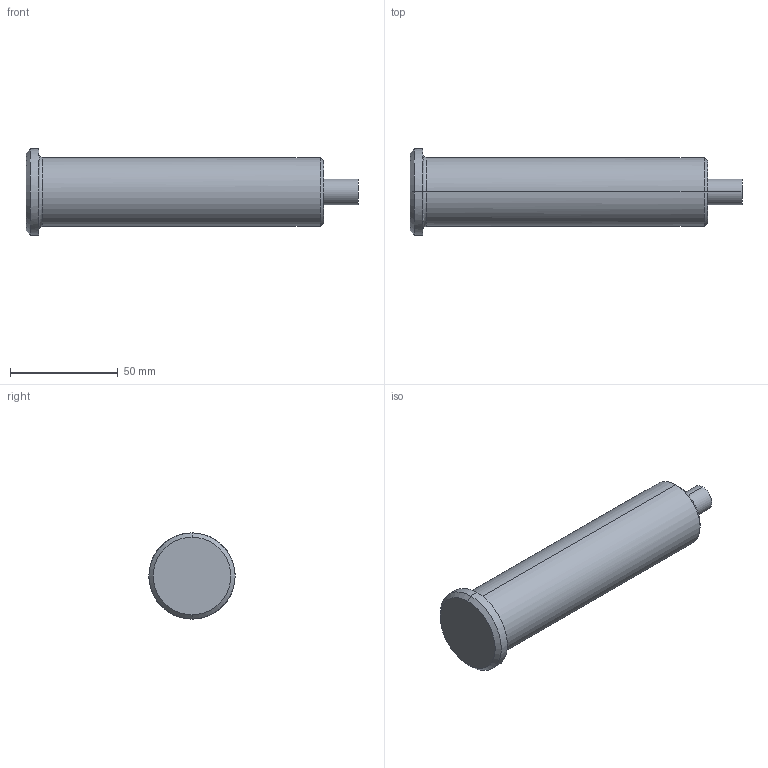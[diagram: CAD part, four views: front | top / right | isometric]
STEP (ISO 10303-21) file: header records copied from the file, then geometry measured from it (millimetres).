
FILE_DESCRIPTION(('CATIA V5 STEP Exchange'),'2;1');
FILE_NAME('C:\Users\Raffaele\Desktop\3D X SITO CF\PERNI -STAFFE SOLLEVAMENTO\395C\GSB_OILLESS_C10305032132\STEP-2.03\395C-032-132.stp','2019-07-03T06:56:24+00:00',('none'),('none'),'CATIA Version 5 Release 20 GA (IN-10)','CATIA V5 STEP AP203','none');
FILE_SCHEMA(('CONFIG_CONTROL_DESIGN'));
Length unit declared in the file: millimetre
Products named in the file (1): 395C-032-132_1
Bounding box: 154 x 40 x 40 mm (x, y, z)
Volume: 115199.2 mm3; surface area: 16822.6 mm2
Topology: 1 solids, 1 shells, 16 faces, 48 edges, 36 vertices
Faces by surface type: cylinder 6, plane 4, cone 4, torus 2
Entity records: 692 total; most frequent: CARTESIAN_POINT 223, ORIENTED_EDGE 96, DIRECTION 70, EDGE_CURVE 48, AXIS2_PLACEMENT_3D 45, VERTEX_POINT 36, CIRCLE 28, EDGE_LOOP 18
